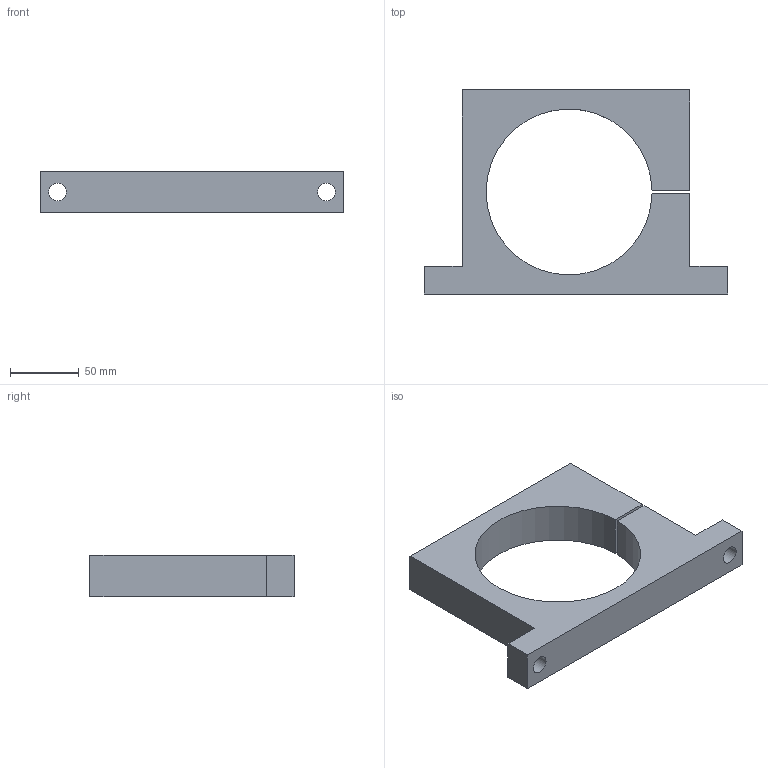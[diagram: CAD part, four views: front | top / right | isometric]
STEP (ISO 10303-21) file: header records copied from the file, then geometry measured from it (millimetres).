
FILE_DESCRIPTION(/* description */ (''),/* implementation_level */ '2;1');
FILE_NAME(/* name */ 'C:\Users\Jefferson\Desktop\Biblioteca Pro Nitro 2024\Flanges\PNB-57-XXX\PNB-57-120.stp',/* time_stamp */ '2024-01-29T10:31:58-03:00',/* author */ ('Jefferson'),/* organization */ (''),/* preprocessor_version */ 'ST-DEVELOPER v18.1',/* originating_system */ 'Autodesk Inventor 2021',/* authorisation */ '');
FILE_SCHEMA (('AUTOMOTIVE_DESIGN { 1 0 10303 214 3 1 1 }'));
Length unit declared in the file: millimetre
Products named in the file (1): PNB-57-120
Bounding box: 220 x 148 x 30 mm (x, y, z)
Volume: 403204 mm3; surface area: 68025.8 mm2
Topology: 1 solids, 1 shells, 160 faces, 434 edges, 291 vertices
Faces by surface type: plane 94, bspline 59, cylinder 6, cone 1
Full cylindrical faces by diameter (mm): 10.106 x1, 13 x2, 13.5 x1, 20 x1
Entity records: 5358 total; most frequent: CARTESIAN_POINT 1652, ORIENTED_EDGE 866, DIRECTION 537, EDGE_CURVE 433, LINE 297, VECTOR 297, VERTEX_POINT 291, EDGE_LOOP 182
